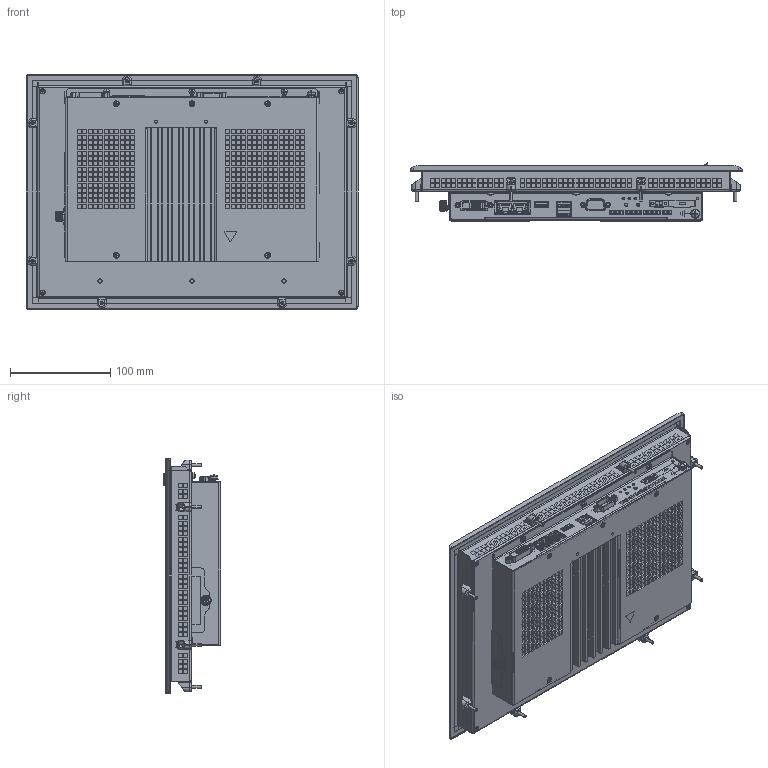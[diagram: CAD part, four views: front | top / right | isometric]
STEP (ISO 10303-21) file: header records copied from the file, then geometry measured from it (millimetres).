
FILE_DESCRIPTION((''),'2;1');
FILE_NAME('C6E22-Panel_121W_RES_SL','2017-02-27T',('manpal'),(''),'PRO/ENGINEER BY PARAMETRIC TECHNOLOGY CORPORATION, 2013410','PRO/ENGINEER BY PARAMETRIC TECHNOLOGY CORPORATION, 2013410','');
FILE_SCHEMA(('AUTOMOTIVE_DESIGN { 1 0 10303 214 1 1 1 1 }'));
Products named in the file (1): C6E22-Panel_121W_RES_SL_
Bounding box: 331 x 57.74 x 234 mm (x, y, z)
Surface area: 516004.5 mm2 (no closed solid volume)
Topology: 0 solids, 302 shells, 4188 faces, 17855 edges, 13762 vertices
Faces by surface type: plane 3203, cylinder 602, cone 212, bspline 94, torus 47, sphere 26, extrusion 4
Entity records: 207029 total; most frequent: CARTESIAN_POINT 46905, DIRECTION 27802, ORIENTED_EDGE 25599, EDGE_CURVE 17829, VECTOR 14000, LINE 13996, VERTEX_POINT 13762, AXIS2_PLACEMENT_3D 6901
